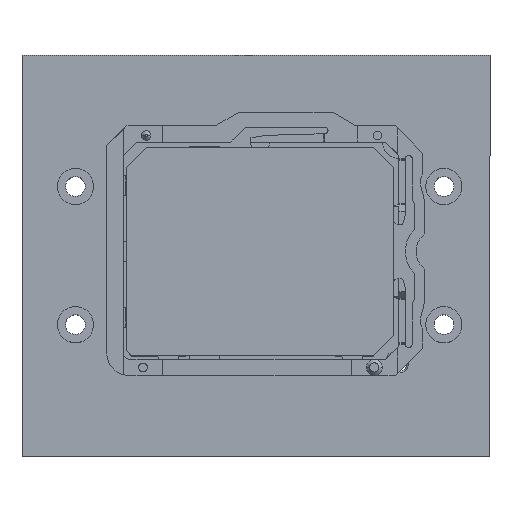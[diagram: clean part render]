
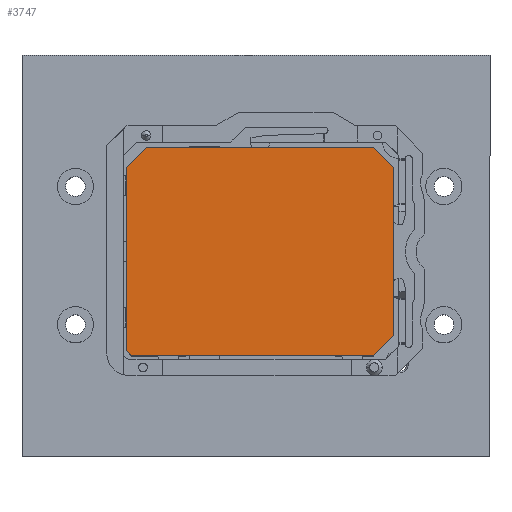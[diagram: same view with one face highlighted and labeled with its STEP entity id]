
A CAD part, top view. The second image highlights one B-rep face of the part: STEP entity #3747.
In plain terms, the highlighted planar face has unit normal (0, 0, 1) as drawn and (0, 0, -1) by its records, which use the part's own axes.
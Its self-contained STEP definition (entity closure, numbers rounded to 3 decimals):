
#3557=CARTESIAN_POINT('',(3.048,0.0,0.0));
#3558=VERTEX_POINT('',#3557);
#3565=CARTESIAN_POINT('',(37.592,0.0,0.0));
#3566=VERTEX_POINT('',#3565);
#3567=CARTESIAN_POINT('',(37.592,0.0,0.0));
#3568=DIRECTION('',(-1.0,0.0,0.0));
#3569=VECTOR('',#3568,34.544);
#3570=LINE('',#3567,#3569);
#3571=EDGE_CURVE('',#3566,#3558,#3570,.T.);
#3619=CARTESIAN_POINT('',(0.0,3.048,0.0));
#3620=VERTEX_POINT('',#3619);
#3627=CARTESIAN_POINT('',(0.0,3.048,0.0));
#3628=DIRECTION('',(0.707,-0.707,0.0));
#3629=VECTOR('',#3628,4.311);
#3630=LINE('',#3627,#3629);
#3631=EDGE_CURVE('',#3620,#3558,#3630,.T.);
#3651=CARTESIAN_POINT('',(40.64,3.048,0.0));
#3652=VERTEX_POINT('',#3651);
#3653=CARTESIAN_POINT('',(37.592,0.0,0.0));
#3654=DIRECTION('',(0.707,0.707,0.0));
#3655=VECTOR('',#3654,4.311);
#3656=LINE('',#3653,#3655);
#3657=EDGE_CURVE('',#3566,#3652,#3656,.T.);
#3683=CARTESIAN_POINT('',(40.64,28.702,0.0));
#3684=VERTEX_POINT('',#3683);
#3691=CARTESIAN_POINT('',(37.592,31.75,0.0));
#3692=VERTEX_POINT('',#3691);
#3693=CARTESIAN_POINT('',(40.64,28.702,0.0));
#3694=DIRECTION('',(-0.707,0.707,0.0));
#3695=VECTOR('',#3694,4.311);
#3696=LINE('',#3693,#3695);
#3697=EDGE_CURVE('',#3684,#3692,#3696,.T.);
#3708=CARTESIAN_POINT('',(-2.032,-1.587,0.));
#3709=DIRECTION('',(0.0,0.0,1.0));
#3710=DIRECTION('',(1.0,0.0,0.0));
#3711=AXIS2_PLACEMENT_3D('',#3708,#3709,#3710);
#3712=PLANE('',#3711);
#3713=CARTESIAN_POINT('',(0.762,31.75,0.0));
#3714=VERTEX_POINT('',#3713);
#3715=CARTESIAN_POINT('',(0.0,30.988,0.0));
#3716=VERTEX_POINT('',#3715);
#3717=CARTESIAN_POINT('',(0.762,31.75,0.0));
#3718=DIRECTION('',(-0.707,-0.707,0.0));
#3719=VECTOR('',#3718,1.078);
#3720=LINE('',#3717,#3719);
#3721=EDGE_CURVE('',#3714,#3716,#3720,.T.);
#3722=ORIENTED_EDGE('',*,*,#3721,.F.);
#3723=CARTESIAN_POINT('',(0.762,31.75,0.0));
#3724=DIRECTION('',(1.0,0.0,0.0));
#3725=VECTOR('',#3724,36.83);
#3726=LINE('',#3723,#3725);
#3727=EDGE_CURVE('',#3714,#3692,#3726,.T.);
#3728=ORIENTED_EDGE('',*,*,#3727,.T.);
#3729=ORIENTED_EDGE('',*,*,#3697,.F.);
#3730=CARTESIAN_POINT('',(40.64,28.702,0.0));
#3731=DIRECTION('',(0.0,-1.0,0.0));
#3732=VECTOR('',#3731,25.654);
#3733=LINE('',#3730,#3732);
#3734=EDGE_CURVE('',#3684,#3652,#3733,.T.);
#3735=ORIENTED_EDGE('',*,*,#3734,.T.);
#3736=ORIENTED_EDGE('',*,*,#3657,.F.);
#3737=ORIENTED_EDGE('',*,*,#3571,.T.);
#3738=ORIENTED_EDGE('',*,*,#3631,.F.);
#3739=CARTESIAN_POINT('',(0.0,3.048,0.0));
#3740=DIRECTION('',(0.0,1.0,0.0));
#3741=VECTOR('',#3740,27.94);
#3742=LINE('',#3739,#3741);
#3743=EDGE_CURVE('',#3620,#3716,#3742,.T.);
#3744=ORIENTED_EDGE('',*,*,#3743,.T.);
#3745=EDGE_LOOP('',(#3722,#3728,#3729,#3735,#3736,#3737,#3738,#3744));
#3746=FACE_OUTER_BOUND('',#3745,.T.);
#3747=ADVANCED_FACE('',(#3746),#3712,.F.);
